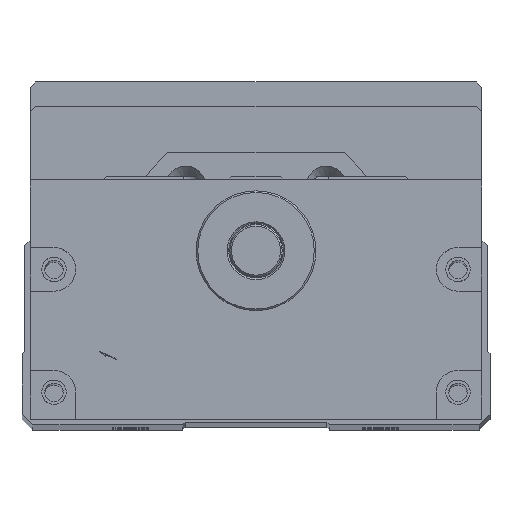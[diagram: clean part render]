
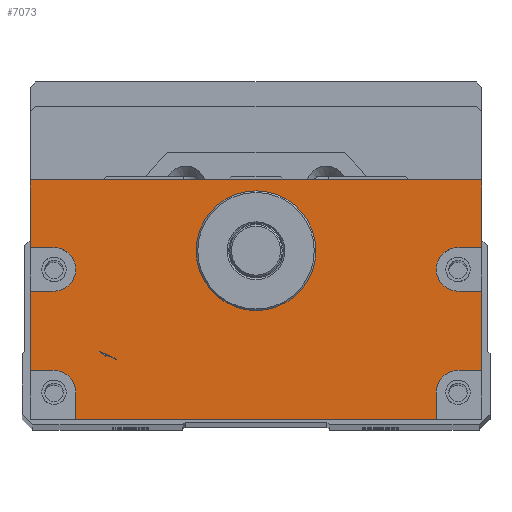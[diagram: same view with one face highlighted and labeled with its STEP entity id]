
A CAD part, top view. The second image highlights one B-rep face of the part: STEP entity #7073.
In plain terms, the highlighted planar face has unit normal (0, 0, 1).
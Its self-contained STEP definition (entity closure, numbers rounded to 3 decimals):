
#550=LINE('',#27981,#1270);
#552=LINE('',#27985,#1272);
#553=LINE('',#27988,#1273);
#554=LINE('',#27990,#1274);
#555=LINE('',#27994,#1275);
#556=LINE('',#27996,#1276);
#557=LINE('',#27997,#1277);
#558=LINE('',#27999,#1278);
#559=LINE('',#28003,#1279);
#560=LINE('',#28005,#1280);
#561=LINE('',#28007,#1281);
#562=LINE('',#28011,#1282);
#563=LINE('',#28013,#1283);
#564=LINE('',#28015,#1284);
#1270=VECTOR('',#16536,1.);
#1272=VECTOR('',#16540,1.);
#1273=VECTOR('',#16541,1.);
#1274=VECTOR('',#16542,1.);
#1275=VECTOR('',#16545,1.);
#1276=VECTOR('',#16546,1.);
#1277=VECTOR('',#16547,1.);
#1278=VECTOR('',#16548,1.);
#1279=VECTOR('',#16551,1.);
#1280=VECTOR('',#16552,1.);
#1281=VECTOR('',#16553,1.);
#1282=VECTOR('',#16556,1.);
#1283=VECTOR('',#16557,1.);
#1284=VECTOR('',#16558,1.);
#6579=FACE_BOUND('',#8494,.T.);
#6580=FACE_BOUND('',#8495,.T.);
#7073=ADVANCED_FACE('',(#6579,#6580),#7561,.T.);
#7561=PLANE('',#15018);
#8494=EDGE_LOOP('',(#9985,#9986,#9987,#9988,#9989,#9990,#9991,#9992,#9993,
#9994,#9995,#9996,#9997,#9998,#9999,#10000,#10001,#10002));
#8495=EDGE_LOOP('',(#10003));
#9985=ORIENTED_EDGE('',*,*,#13330,.F.);
#9986=ORIENTED_EDGE('',*,*,#13331,.T.);
#9987=ORIENTED_EDGE('',*,*,#13332,.F.);
#9988=ORIENTED_EDGE('',*,*,#13333,.F.);
#9989=ORIENTED_EDGE('',*,*,#13334,.F.);
#9990=ORIENTED_EDGE('',*,*,#13335,.T.);
#9991=ORIENTED_EDGE('',*,*,#13328,.T.);
#9992=ORIENTED_EDGE('',*,*,#13336,.T.);
#9993=ORIENTED_EDGE('',*,*,#13337,.F.);
#9994=ORIENTED_EDGE('',*,*,#13338,.F.);
#9995=ORIENTED_EDGE('',*,*,#13339,.F.);
#9996=ORIENTED_EDGE('',*,*,#13340,.T.);
#9997=ORIENTED_EDGE('',*,*,#13341,.F.);
#9998=ORIENTED_EDGE('',*,*,#13342,.F.);
#9999=ORIENTED_EDGE('',*,*,#13343,.F.);
#10000=ORIENTED_EDGE('',*,*,#13344,.T.);
#10001=ORIENTED_EDGE('',*,*,#13345,.F.);
#10002=ORIENTED_EDGE('',*,*,#13346,.F.);
#10003=ORIENTED_EDGE('',*,*,#13314,.T.);
#12180=VERTEX_POINT('',#27952);
#12193=VERTEX_POINT('',#27980);
#12194=VERTEX_POINT('',#27982);
#12195=VERTEX_POINT('',#27986);
#12196=VERTEX_POINT('',#27987);
#12197=VERTEX_POINT('',#27989);
#12198=VERTEX_POINT('',#27991);
#12199=VERTEX_POINT('',#27993);
#12200=VERTEX_POINT('',#27995);
#12201=VERTEX_POINT('',#27998);
#12202=VERTEX_POINT('',#28000);
#12203=VERTEX_POINT('',#28002);
#12204=VERTEX_POINT('',#28004);
#12205=VERTEX_POINT('',#28006);
#12206=VERTEX_POINT('',#28008);
#12207=VERTEX_POINT('',#28010);
#12208=VERTEX_POINT('',#28012);
#12209=VERTEX_POINT('',#28014);
#12210=VERTEX_POINT('',#28016);
#13314=EDGE_CURVE('',#12180,#12180,#14401,.T.);
#13328=EDGE_CURVE('',#12194,#12193,#550,.T.);
#13330=EDGE_CURVE('',#12195,#12196,#552,.T.);
#13331=EDGE_CURVE('',#12195,#12197,#553,.T.);
#13332=EDGE_CURVE('',#12198,#12197,#554,.T.);
#13333=EDGE_CURVE('',#12199,#12198,#14410,.T.);
#13334=EDGE_CURVE('',#12200,#12199,#555,.T.);
#13335=EDGE_CURVE('',#12200,#12194,#556,.T.);
#13336=EDGE_CURVE('',#12193,#12201,#557,.T.);
#13337=EDGE_CURVE('',#12202,#12201,#558,.T.);
#13338=EDGE_CURVE('',#12203,#12202,#14411,.T.);
#13339=EDGE_CURVE('',#12204,#12203,#559,.T.);
#13340=EDGE_CURVE('',#12204,#12205,#560,.T.);
#13341=EDGE_CURVE('',#12206,#12205,#561,.T.);
#13342=EDGE_CURVE('',#12207,#12206,#14412,.T.);
#13343=EDGE_CURVE('',#12208,#12207,#562,.T.);
#13344=EDGE_CURVE('',#12208,#12209,#563,.T.);
#13345=EDGE_CURVE('',#12210,#12209,#564,.T.);
#13346=EDGE_CURVE('',#12196,#12210,#14413,.T.);
#14401=CIRCLE('',#15002,11.);
#14410=CIRCLE('',#15014,4.);
#14411=CIRCLE('',#15015,4.);
#14412=CIRCLE('',#15016,4.);
#14413=CIRCLE('',#15017,4.);
#15002=AXIS2_PLACEMENT_3D('',#27951,#16509,#16510);
#15014=AXIS2_PLACEMENT_3D('',#27992,#16543,#16544);
#15015=AXIS2_PLACEMENT_3D('',#28001,#16549,#16550);
#15016=AXIS2_PLACEMENT_3D('',#28009,#16554,#16555);
#15017=AXIS2_PLACEMENT_3D('',#28017,#16559,#16560);
#15018=AXIS2_PLACEMENT_3D('',#28018,#16561,#16562);
#16509=DIRECTION('',(0.,0.,-1.));
#16510=DIRECTION('',(1.,0.,0.));
#16536=DIRECTION('',(-1.,0.,0.));
#16540=DIRECTION('',(-1.,0.,0.));
#16541=DIRECTION('',(0.,1.,0.));
#16542=DIRECTION('',(1.,0.,0.));
#16543=DIRECTION('',(0.,0.,1.));
#16544=DIRECTION('',(1.,0.,0.));
#16545=DIRECTION('',(-1.,0.,0.));
#16546=DIRECTION('',(0.,1.,0.));
#16547=DIRECTION('',(0.,-1.,0.));
#16548=DIRECTION('',(-1.,0.,0.));
#16549=DIRECTION('',(0.,0.,1.));
#16550=DIRECTION('',(1.,0.,0.));
#16551=DIRECTION('',(1.,0.,0.));
#16552=DIRECTION('',(0.,-1.,0.));
#16553=DIRECTION('',(-1.,0.,0.));
#16554=DIRECTION('',(0.,0.,1.));
#16555=DIRECTION('',(1.,0.,0.));
#16556=DIRECTION('',(0.,1.,0.));
#16557=DIRECTION('',(1.,0.,0.));
#16558=DIRECTION('',(0.,-1.,0.));
#16559=DIRECTION('',(0.,0.,1.));
#16560=DIRECTION('',(1.,0.,0.));
#16561=DIRECTION('',(0.,0.,1.));
#16562=DIRECTION('',(-1.,0.,0.));
#27951=CARTESIAN_POINT('',(450.,0.,382.5));
#27952=CARTESIAN_POINT('',(461.,0.,382.5));
#27980=CARTESIAN_POINT('',(408.5,13.,382.5));
#27981=CARTESIAN_POINT('',(491.5,13.,382.5));
#27982=CARTESIAN_POINT('',(491.5,13.,382.5));
#27985=CARTESIAN_POINT('',(491.5,-22.,382.5));
#27986=CARTESIAN_POINT('',(491.5,-22.,382.5));
#27987=CARTESIAN_POINT('',(487.115,-22.,382.5));
#27988=CARTESIAN_POINT('',(491.5,-31.,382.5));
#27989=CARTESIAN_POINT('',(491.5,-7.431,382.5));
#27990=CARTESIAN_POINT('',(491.5,-7.431,382.5));
#27991=CARTESIAN_POINT('',(487.115,-7.431,382.5));
#27992=CARTESIAN_POINT('',(487.115,-3.431,382.5));
#27993=CARTESIAN_POINT('',(487.115,0.569,382.5));
#27994=CARTESIAN_POINT('',(491.5,0.569,382.5));
#27995=CARTESIAN_POINT('',(491.5,0.569,382.5));
#27996=CARTESIAN_POINT('',(491.5,-31.,382.5));
#27997=CARTESIAN_POINT('',(408.5,27.5,382.5));
#27998=CARTESIAN_POINT('',(408.5,0.569,382.5));
#27999=CARTESIAN_POINT('',(491.5,0.569,382.5));
#28000=CARTESIAN_POINT('',(412.885,0.569,382.5));
#28001=CARTESIAN_POINT('',(412.885,-3.431,382.5));
#28002=CARTESIAN_POINT('',(412.885,-7.431,382.5));
#28003=CARTESIAN_POINT('',(491.5,-7.431,382.5));
#28004=CARTESIAN_POINT('',(408.5,-7.431,382.5));
#28005=CARTESIAN_POINT('',(408.5,27.5,382.5));
#28006=CARTESIAN_POINT('',(408.5,-22.,382.5));
#28007=CARTESIAN_POINT('',(491.5,-22.,382.5));
#28008=CARTESIAN_POINT('',(412.885,-22.,382.5));
#28009=CARTESIAN_POINT('',(412.885,-26.,382.5));
#28010=CARTESIAN_POINT('',(416.885,-26.,382.5));
#28011=CARTESIAN_POINT('',(416.885,-31.,382.5));
#28012=CARTESIAN_POINT('',(416.885,-31.,382.5));
#28013=CARTESIAN_POINT('',(408.5,-31.,382.5));
#28014=CARTESIAN_POINT('',(483.115,-31.,382.5));
#28015=CARTESIAN_POINT('',(483.115,-31.,382.5));
#28016=CARTESIAN_POINT('',(483.115,-26.,382.5));
#28017=CARTESIAN_POINT('',(487.115,-26.,382.5));
#28018=CARTESIAN_POINT('',(491.5,-31.,382.5));
